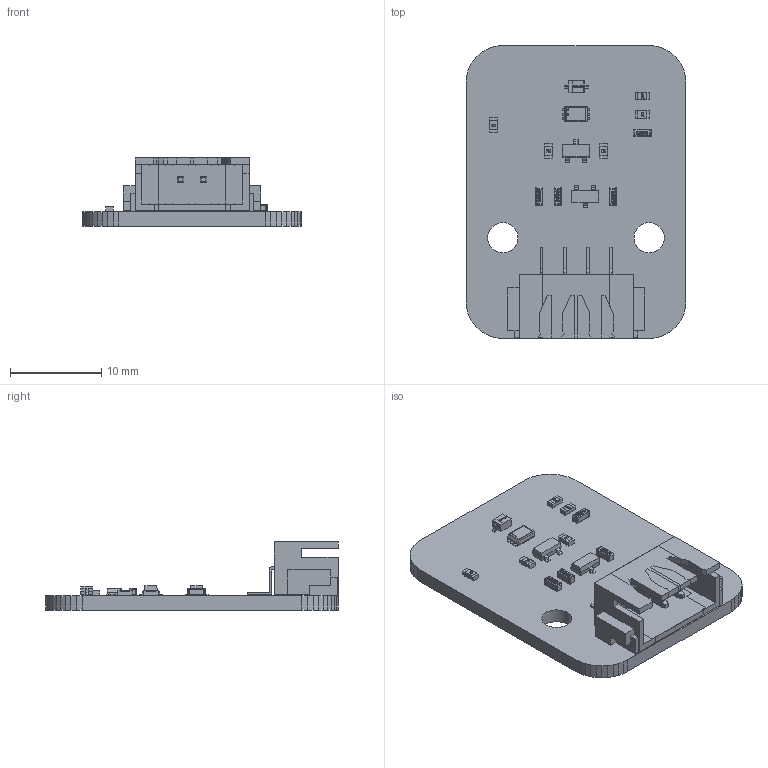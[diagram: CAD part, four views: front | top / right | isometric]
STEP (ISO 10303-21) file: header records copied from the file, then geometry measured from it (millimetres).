
FILE_DESCRIPTION(('Open CASCADE Model'),'2;1');
FILE_NAME('Open CASCADE Shape Model','2024-09-14T15:50:06',('Author'),( 'Open CASCADE'),'Open CASCADE STEP processor 6.5','Open CASCADE 6.5' ,'Unknown');
FILE_SCHEMA(('AUTOMOTIVE_DESIGN { 1 0 10303 214 1 1 1 1 }'));
Length unit declared in the file: millimetre
Products named in the file (22): PCB; Board; U1; User_Library-BH1750FVI-1; R2; 0603_R; R1; C1; User_Library-0603(1608M)_Cap; P4; C2; C3; P2; 4pin-2.5; U2; CircuitWorks-SOT-23; C4; D1; SOD-323; Q1; R3; R4
Assembly tree (29 placements, depth 3):
  PCB
    Board
    U1
      User_Library-BH1750FVI-1
    R2
      0603_R
    R1
      0603_R
    C1
      User_Library-0603(1608M)_Cap
    P4
      0603_R
    C2
      User_Library-0603(1608M)_Cap
    C3
      User_Library-0603(1608M)_Cap
    P2
      4pin-2.5
    U2
      CircuitWorks-SOT-23
    C4
      User_Library-0603(1608M)_Cap
    D1
      SOD-323
    Q1
      CircuitWorks-SOT-23
    R3
      0603_R
    R4
      0603_R
Bounding box: 24.02 x 32.02 x 7.46 mm (x, y, z)
Volume: 1494.4 mm3; surface area: 2859.6 mm2
Topology: 35 solids, 35 shells, 1356 faces, 3553 edges, 2299 vertices
Faces by surface type: plane 825, bspline 370, cylinder 136, extrusion 25
Full cylindrical faces by diameter (mm): 3.3 x2
Entity records: 68662 total; most frequent: CARTESIAN_POINT 25126, DIRECTION 6291, VECTOR 4681, LINE 4676, ORIENTED_EDGE 4152, PCURVE 4152, DEFINITIONAL_REPRESENTATION 4152, EDGE_CURVE 2076
